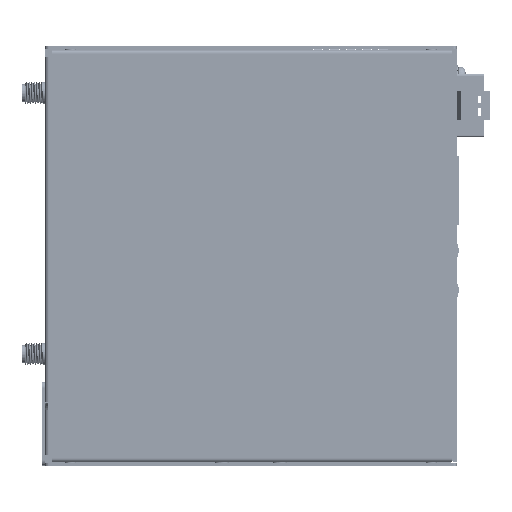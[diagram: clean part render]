
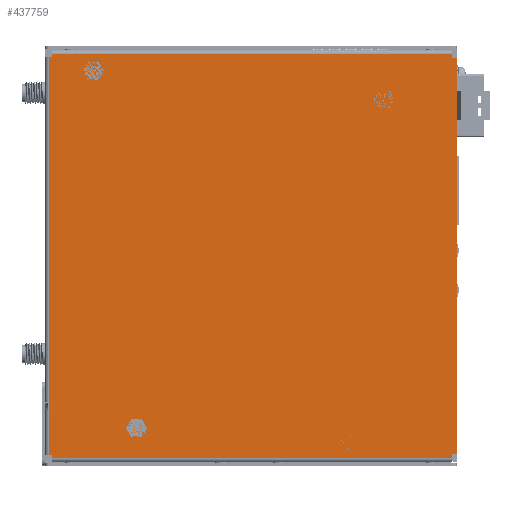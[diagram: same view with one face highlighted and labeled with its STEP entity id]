
A CAD part, left-side view. The second image highlights one B-rep face of the part: STEP entity #437759.
In plain terms, the highlighted planar face has unit normal (-1, 0, 0) as drawn and (0, -1, 0) by its records, which use the part's own axes.
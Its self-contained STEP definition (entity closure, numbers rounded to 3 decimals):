
#1924 = CARTESIAN_POINT ( 'NONE',  ( 0., 0., 0. ) ) ;
#6201 = ORIENTED_EDGE ( 'NONE', *, *, #164809, .T. ) ;
#11618 = AXIS2_PLACEMENT_3D ( 'NONE', #46992, #300343, #366590 ) ;
#12767 = LINE ( 'NONE', #139084, #541345 ) ;
#21635 = VERTEX_POINT ( 'NONE', #88362 ) ;
#26655 = CARTESIAN_POINT ( 'NONE',  ( 111.6, 0., -111.5 ) ) ;
#33330 = VECTOR ( 'NONE', #47478, 1000. ) ;
#46992 = CARTESIAN_POINT ( 'NONE',  ( 0., 0., 0. ) ) ;
#47478 = DIRECTION ( 'NONE',  ( 0., 0., 1. ) ) ;
#47845 = DIRECTION ( 'NONE',  ( -1., 0., 0. ) ) ;
#48575 = ORIENTED_EDGE ( 'NONE', *, *, #241042, .T. ) ;
#56137 = LINE ( 'NONE', #147093, #33330 ) ;
#66560 = ORIENTED_EDGE ( 'NONE', *, *, #217192, .F. ) ;
#70361 = EDGE_CURVE ( 'NONE', #375971, #272262, #438889, .T. ) ;
#76148 = CARTESIAN_POINT ( 'NONE',  ( 112.6, 0., -111.5 ) ) ;
#76449 = CARTESIAN_POINT ( 'NONE',  ( 1., 0., -1.2 ) ) ;
#80689 = ORIENTED_EDGE ( 'NONE', *, *, #240127, .F. ) ;
#87599 = VECTOR ( 'NONE', #564972, 1000. ) ;
#88362 = CARTESIAN_POINT ( 'NONE',  ( 2., 0., -112.5 ) ) ;
#88401 = CARTESIAN_POINT ( 'NONE',  ( 0., 0., -1.2 ) ) ;
#91866 = CARTESIAN_POINT ( 'NONE',  ( 0., 0., -1.2 ) ) ;
#102483 = ORIENTED_EDGE ( 'NONE', *, *, #414728, .T. ) ;
#110371 = CARTESIAN_POINT ( 'NONE',  ( 2., 0., 0. ) ) ;
#111777 = VECTOR ( 'NONE', #460382, 1000. ) ;
#115202 = ORIENTED_EDGE ( 'NONE', *, *, #70361, .F. ) ;
#121773 = VERTEX_POINT ( 'NONE', #203446 ) ;
#124720 = DIRECTION ( 'NONE',  ( -1., 0., 0. ) ) ;
#139084 = CARTESIAN_POINT ( 'NONE',  ( 111.6, 0., 0. ) ) ;
#141936 = DIRECTION ( 'NONE',  ( 0., 0., 1. ) ) ;
#142598 = CARTESIAN_POINT ( 'NONE',  ( 111.4, 0., -1.2 ) ) ;
#147093 = CARTESIAN_POINT ( 'NONE',  ( 111.4, 0., 0. ) ) ;
#148867 = LINE ( 'NONE', #283990, #460876 ) ;
#149580 = CARTESIAN_POINT ( 'NONE',  ( 112.6, 0., 0. ) ) ;
#150200 = EDGE_CURVE ( 'NONE', #546273, #204309, #394555, .T. ) ;
#157088 = DIRECTION ( 'NONE',  ( -1., 0., 0. ) ) ;
#158305 = EDGE_CURVE ( 'NONE', #423638, #236990, #56137, .T. ) ;
#160048 = ORIENTED_EDGE ( 'NONE', *, *, #150200, .F. ) ;
#163376 = CARTESIAN_POINT ( 'NONE',  ( 111.4, 0., 0. ) ) ;
#164809 = EDGE_CURVE ( 'NONE', #297264, #423638, #411438, .T. ) ;
#172735 = VERTEX_POINT ( 'NONE', #26655 ) ;
#174897 = ORIENTED_EDGE ( 'NONE', *, *, #242433, .T. ) ;
#178352 = EDGE_CURVE ( 'NONE', #572934, #172735, #12767, .T. ) ;
#179806 = ORIENTED_EDGE ( 'NONE', *, *, #220435, .F. ) ;
#184812 = PLANE ( 'NONE',  #11618 ) ;
#187575 = VECTOR ( 'NONE', #502698, 1000. ) ;
#187928 = VECTOR ( 'NONE', #442866, 1000. ) ;
#198624 = DIRECTION ( 'NONE',  ( 0., 0., -1. ) ) ;
#203446 = CARTESIAN_POINT ( 'NONE',  ( 2.2, 0., -1.2 ) ) ;
#204309 = VERTEX_POINT ( 'NONE', #483838 ) ;
#216842 = EDGE_CURVE ( 'NONE', #383910, #236990, #494680, .T. ) ;
#217192 = EDGE_CURVE ( 'NONE', #572934, #546273, #227129, .T. ) ;
#217232 = CARTESIAN_POINT ( 'NONE',  ( 0., 0., -111.5 ) ) ;
#220435 = EDGE_CURVE ( 'NONE', #204309, #21635, #380030, .T. ) ;
#227129 = LINE ( 'NONE', #540921, #466001 ) ;
#227171 = CARTESIAN_POINT ( 'NONE',  ( 0., 0., -111.5 ) ) ;
#236990 = VERTEX_POINT ( 'NONE', #163376 ) ;
#240127 = EDGE_CURVE ( 'NONE', #297264, #282578, #284664, .T. ) ;
#240353 = CARTESIAN_POINT ( 'NONE',  ( 2.2, 0., 0. ) ) ;
#241042 = EDGE_CURVE ( 'NONE', #172735, #282578, #318205, .T. ) ;
#242433 = EDGE_CURVE ( 'NONE', #375971, #482659, #484066, .T. ) ;
#250952 = CARTESIAN_POINT ( 'NONE',  ( 111.6, 0., -112.5 ) ) ;
#253917 = EDGE_CURVE ( 'NONE', #121773, #272262, #484414, .T. ) ;
#262271 = CARTESIAN_POINT ( 'NONE',  ( 112.6, 0., -1.2 ) ) ;
#270142 = FACE_OUTER_BOUND ( 'NONE', #579889, .T. ) ;
#272262 = VERTEX_POINT ( 'NONE', #76449 ) ;
#276026 = VECTOR ( 'NONE', #405095, 1000. ) ;
#277753 = VECTOR ( 'NONE', #124720, 1000. ) ;
#282578 = VERTEX_POINT ( 'NONE', #76148 ) ;
#283990 = CARTESIAN_POINT ( 'NONE',  ( 2.2, 0., 0. ) ) ;
#284664 = LINE ( 'NONE', #149580, #111777 ) ;
#297264 = VERTEX_POINT ( 'NONE', #262271 ) ;
#297925 = CARTESIAN_POINT ( 'NONE',  ( 0., 0., -112.5 ) ) ;
#300343 = DIRECTION ( 'NONE',  ( 0., -1., 0. ) ) ;
#318205 = LINE ( 'NONE', #227171, #187575 ) ;
#323925 = DIRECTION ( 'NONE',  ( -1., 0., 0. ) ) ;
#327162 = VECTOR ( 'NONE', #576902, 1000. ) ;
#332459 = ORIENTED_EDGE ( 'NONE', *, *, #253917, .T. ) ;
#342007 = LINE ( 'NONE', #110371, #87599 ) ;
#344095 = ORIENTED_EDGE ( 'NONE', *, *, #178352, .T. ) ;
#353871 = CARTESIAN_POINT ( 'NONE',  ( 1., 0., 0. ) ) ;
#355290 = CARTESIAN_POINT ( 'NONE',  ( 99.15, 0., -112.5 ) ) ;
#366590 = DIRECTION ( 'NONE',  ( 0., 0., -1. ) ) ;
#375751 = ORIENTED_EDGE ( 'NONE', *, *, #483334, .T. ) ;
#375971 = VERTEX_POINT ( 'NONE', #433271 ) ;
#380030 = LINE ( 'NONE', #297925, #506641 ) ;
#383910 = VERTEX_POINT ( 'NONE', #240353 ) ;
#390384 = VECTOR ( 'NONE', #491746, 1000. ) ;
#394555 = LINE ( 'NONE', #421887, #277753 ) ;
#405095 = DIRECTION ( 'NONE',  ( -1., 0., 0. ) ) ;
#411438 = LINE ( 'NONE', #91866, #560207 ) ;
#414728 = EDGE_CURVE ( 'NONE', #482659, #21635, #342007, .T. ) ;
#421887 = CARTESIAN_POINT ( 'NONE',  ( 99.15, 0., -112.5 ) ) ;
#423638 = VERTEX_POINT ( 'NONE', #142598 ) ;
#433271 = CARTESIAN_POINT ( 'NONE',  ( 1., 0., -111.5 ) ) ;
#437759 = ADVANCED_FACE ( 'NONE', ( #270142 ), #184812, .T. ) ;
#438889 = LINE ( 'NONE', #353871, #327162 ) ;
#442866 = DIRECTION ( 'NONE',  ( 1., 0., 0. ) ) ;
#445437 = ORIENTED_EDGE ( 'NONE', *, *, #216842, .F. ) ;
#460382 = DIRECTION ( 'NONE',  ( 0., 0., -1. ) ) ;
#460876 = VECTOR ( 'NONE', #198624, 1000. ) ;
#466001 = VECTOR ( 'NONE', #323925, 1000. ) ;
#478435 = ORIENTED_EDGE ( 'NONE', *, *, #158305, .T. ) ;
#482659 = VERTEX_POINT ( 'NONE', #534311 ) ;
#483334 = EDGE_CURVE ( 'NONE', #383910, #121773, #148867, .T. ) ;
#483838 = CARTESIAN_POINT ( 'NONE',  ( 97.15, 0., -112.5 ) ) ;
#484066 = LINE ( 'NONE', #217232, #187928 ) ;
#484414 = LINE ( 'NONE', #88401, #276026 ) ;
#491746 = DIRECTION ( 'NONE',  ( 1., 0., 0. ) ) ;
#494680 = LINE ( 'NONE', #1924, #390384 ) ;
#502698 = DIRECTION ( 'NONE',  ( 1., 0., 0. ) ) ;
#506641 = VECTOR ( 'NONE', #157088, 1000. ) ;
#534311 = CARTESIAN_POINT ( 'NONE',  ( 2., 0., -111.5 ) ) ;
#540921 = CARTESIAN_POINT ( 'NONE',  ( 0., 0., -112.5 ) ) ;
#541345 = VECTOR ( 'NONE', #141936, 1000. ) ;
#546273 = VERTEX_POINT ( 'NONE', #355290 ) ;
#560207 = VECTOR ( 'NONE', #47845, 1000. ) ;
#564972 = DIRECTION ( 'NONE',  ( 0., 0., -1. ) ) ;
#572934 = VERTEX_POINT ( 'NONE', #250952 ) ;
#576902 = DIRECTION ( 'NONE',  ( 0., 0., 1. ) ) ;
#579889 = EDGE_LOOP ( 'NONE', ( #80689, #6201, #478435, #445437, #375751, #332459, #115202, #174897, #102483, #179806, #160048, #66560, #344095, #48575 ) ) ;
